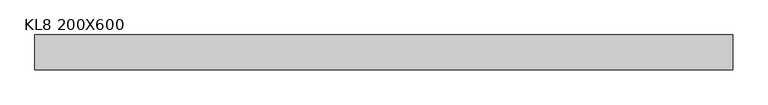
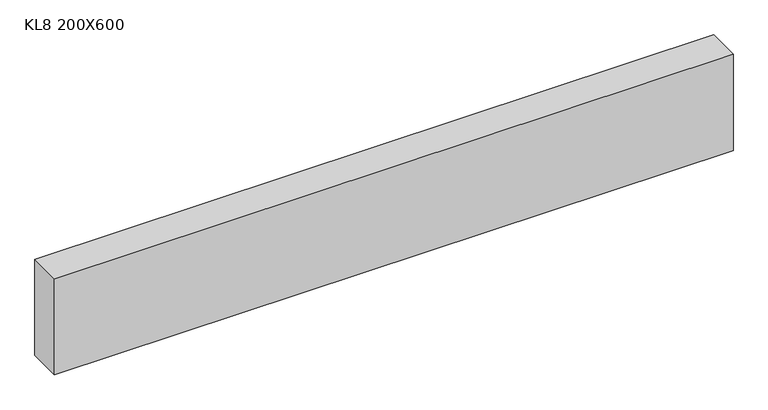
"""IFC4 building model written with IfcOpenShell, lengths in millimetres: beam geometry, 混凝土 - 矩形梁 : KL8 200X600."""

from ifc_helpers import new_model, si_unit, frame, origin, place, context, project, spatial, polyline, outline, extrude, source, transform, mapped, element, save


def kl8_200x600_e6e3d9d6(model_context):
    return source(origin(), model_context, "Body", "SweptSolid", [
        extrude(outline(polyline([(2000.0, 100.0), (2000.0, -100.0), (-2000.0, -100.0), (-2000.0, 100.0), (2000.0, 100.0)])), frame((0.0, 0.0, -300.0), z_axis=(0.0, 0.0, 1.0), x_axis=(1.0, 0.0, 0.0)), (0.0, 0.0, 1.0), 600.0),
    ])


if __name__ == "__main__":
    model = new_model("IFC4")
    model_context = context("Model", 3, world=origin())
    ifc_project = project(units=[si_unit("LENGTHUNIT", "METRE", prefix="MILLI")], contexts=[model_context])
    site = spatial("IfcSite", under=ifc_project)
    building = spatial("IfcBuilding", under=site)
    placement = place(None, origin())
    kl8_200x600_shape = kl8_200x600_e6e3d9d6(model_context)
    element("IfcBeam", 1, ObjectType="混凝土 - 矩形梁 : KL8 200X600", at=placement, inside=building, context=model_context, shape_type="MappedRepresentation", body=[
        mapped(kl8_200x600_shape, transform((0.0, 0.0, 0.0), x_axis=(1.0, 0.0, 0.0), y_axis=(0.0, 1.0, 0.0), z_axis=(0.0, 0.0, 1.0))),
    ])
    save(model, "model.ifc")
